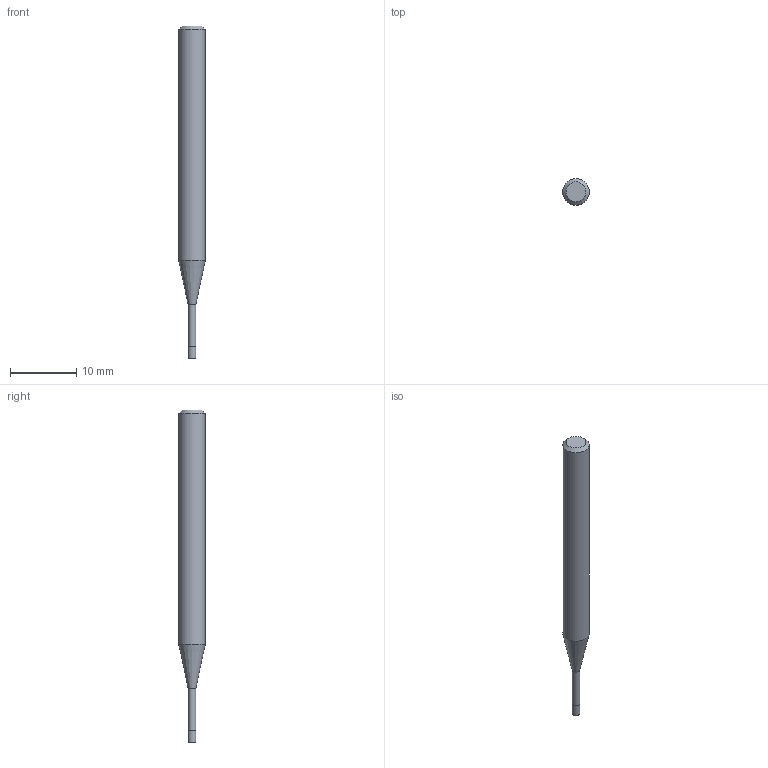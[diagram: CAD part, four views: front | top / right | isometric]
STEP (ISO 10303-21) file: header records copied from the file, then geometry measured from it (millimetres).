
FILE_DESCRIPTION((''),'2;1');
FILE_NAME('C:\Users\nsx150\AppData\Local\Temp\Mastercam 2021\17T8Q8S9EB\TEMP.step','2021-04-21T14:26:12',(''),(''),'STEP Write','Mastercam 2021 ... CNC Software, Inc.','');
FILE_SCHEMA(('AUTOMOTIVE_DESIGN'));
Length unit declared in the file: millimetre
Products named in the file (1): None
Bounding box: 4 x 4 x 50 mm (x, y, z)
Volume: 489.1 mm3; surface area: 540 mm2
Topology: 2 solids, 2 shells, 9 faces, 12 edges, 7 vertices
Faces by surface type: plane 4, cylinder 3, cone 2
Full cylindrical faces by diameter (mm): 1.15 x1, 1.2 x1, 4 x1
Entity records: 211 total; most frequent: DIRECTION 36, CARTESIAN_POINT 25, AXIS2_PLACEMENT_3D 18, ORIENTED_EDGE 14, EDGE_LOOP 14, STYLED_ITEM 12, ADVANCED_FACE 9, FACE_BOUND 8
